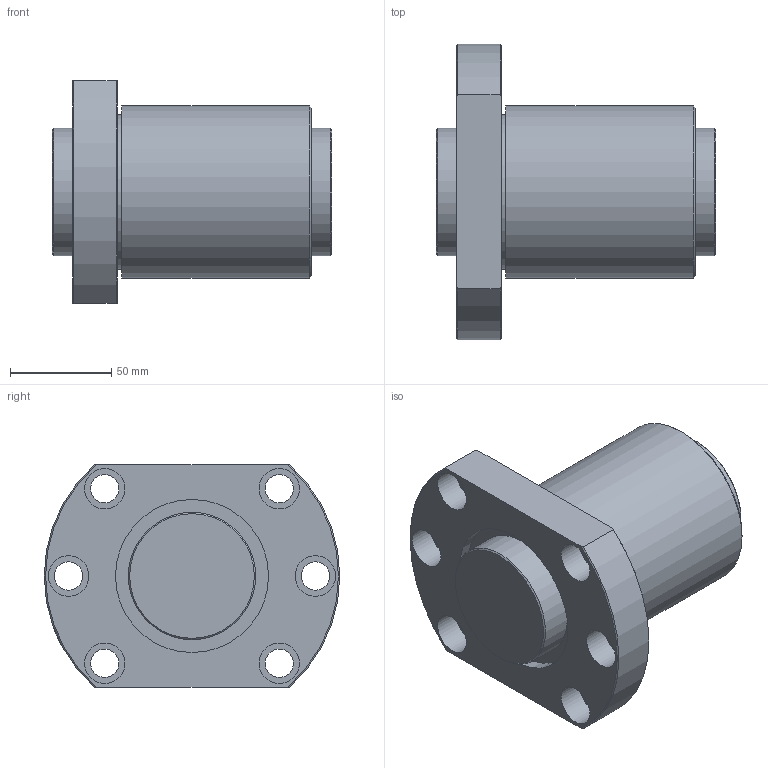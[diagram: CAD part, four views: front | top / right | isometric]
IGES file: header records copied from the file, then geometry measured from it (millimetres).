
Start section: Data from Parasolid IGES Translator 26.0.171, Copyright(c) 2006 Siemens PLM Software. All Rights Reserved.
Global section: file name: DK6310-6RRG1+138LC0_000.igs; native system: By Siemens PLM Incorporated; preprocessor: XPlus GENERIC/IGES 26.0.171; author: Noname; organization: Noname; date: 20250113.093214; units: millimetre
Bounding box: 138 x 146 x 110 mm (x, y, z)
Surface area: 123273.1 mm2 (no closed solid volume)
Topology: 0 solids, 0 shells, 46 faces, 200 edges, 178 vertices
Faces by surface type: revolution 30, extrusion 16
